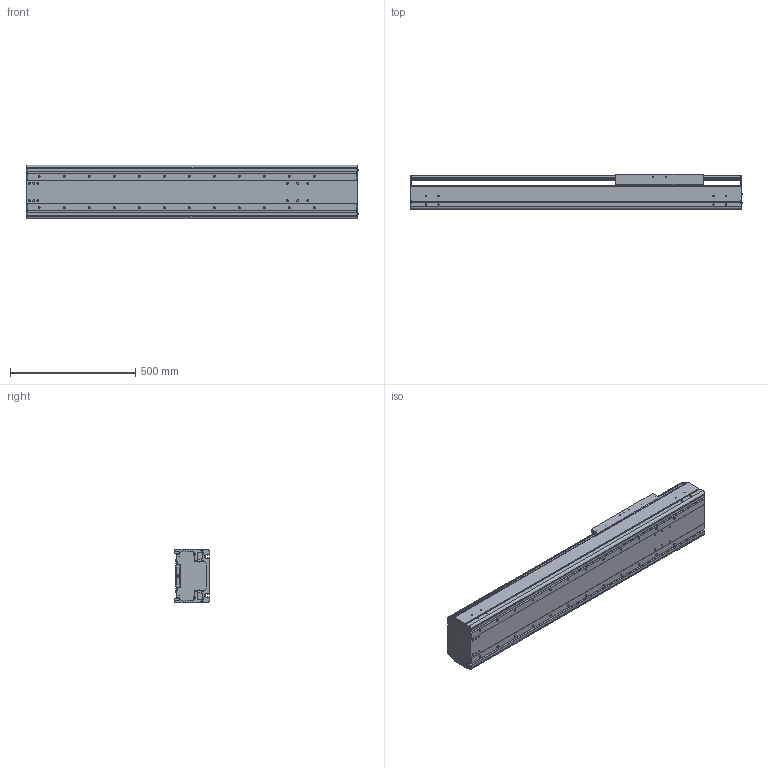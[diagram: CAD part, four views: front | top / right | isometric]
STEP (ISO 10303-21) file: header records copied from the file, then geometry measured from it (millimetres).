
FILE_DESCRIPTION((''),'2;1');
FILE_NAME('BE60J-ST-L_B-75_IGS_PRT','2017-06-18T',(' '),(''),'PRO/ENGINEER BY PARAMETRIC TECHNOLOGY CORPORATION, 2015030','PRO/ENGINEER BY PARAMETRIC TECHNOLOGY CORPORATION, 2015030','');
FILE_SCHEMA(('CONFIG_CONTROL_DESIGN'));
Length unit declared in the file: millimetre
Products named in the file (1): BE60J-ST-L_B-75_IGS_PRT
Bounding box: 1327.4 x 140 x 214 mm (x, y, z)
Volume: 10928912 mm3; surface area: 2875340.4 mm2
Topology: 2 solids, 32 shells, 1125 faces, 2986 edges, 1921 vertices
Faces by surface type: plane 525, cylinder 492, cone 60, torus 24, sphere 24
Entity records: 35281 total; most frequent: CARTESIAN_POINT 6620, DIRECTION 6138, ORIENTED_EDGE 5744, EDGE_CURVE 2928, AXIS2_PLACEMENT_3D 2202, VERTEX_POINT 1920, VECTOR 1734, LINE 1734
